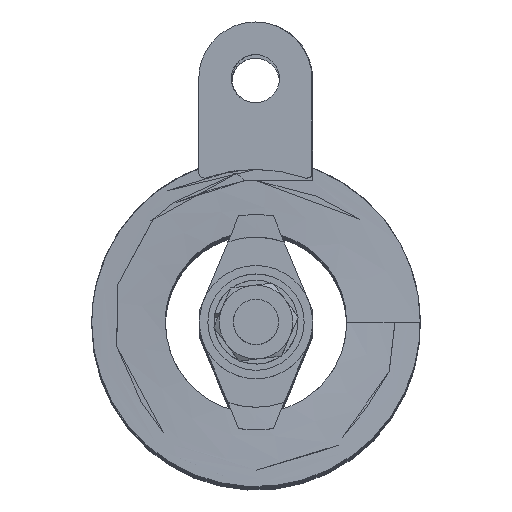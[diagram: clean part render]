
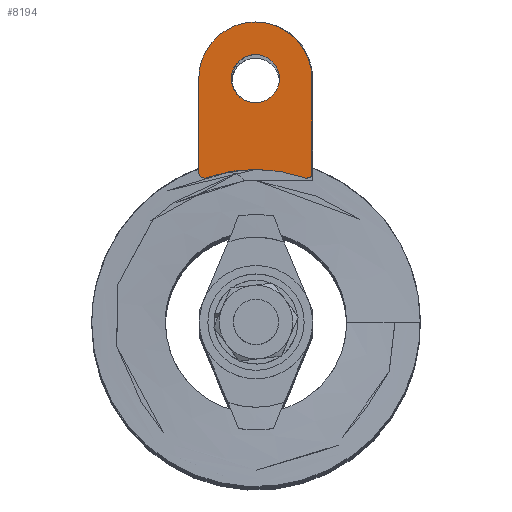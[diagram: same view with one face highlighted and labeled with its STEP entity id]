
A CAD part, top view. The second image highlights one B-rep face of the part: STEP entity #8194.
In plain terms, the highlighted planar face has unit normal (-0.036, 0, 0.999) as drawn and (0.036, -0.999, 0) by its records, which use the part's own axes.
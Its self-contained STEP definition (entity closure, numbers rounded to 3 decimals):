
#147=FACE_BOUND('',#2955,.T.);
#1389=LINE('',#25304,#1850);
#1394=LINE('',#27527,#1855);
#1850=VECTOR('',#10149,10.);
#1855=VECTOR('',#10156,10.);
#2517=FACE_OUTER_BOUND('',#2954,.T.);
#2954=EDGE_LOOP('',(#7517,#7518,#7519,#7520,#7521,#7522));
#2955=EDGE_LOOP('',(#7523));
#3031=CIRCLE('',#8836,1.);
#3034=CIRCLE('',#8841,26.);
#3035=CIRCLE('',#8843,1.);
#3036=CIRCLE('',#8845,10.);
#3037=CIRCLE('',#8847,4.25);
#3835=VERTEX_POINT('',#25027);
#3837=VERTEX_POINT('',#25071);
#3841=VERTEX_POINT('',#25111);
#3842=VERTEX_POINT('',#25131);
#3846=VERTEX_POINT('',#25164);
#3847=VERTEX_POINT('',#25173);
#3848=VERTEX_POINT('',#25177);
#5051=EDGE_CURVE('',#3835,#3837,#3031,.T.);
#5057=EDGE_CURVE('',#3837,#3841,#3034,.T.);
#5059=EDGE_CURVE('',#3841,#3842,#3035,.T.);
#5064=EDGE_CURVE('',#3847,#3846,#3036,.T.);
#5066=EDGE_CURVE('',#3848,#3848,#3037,.T.);
#5072=EDGE_CURVE('',#3842,#3847,#1389,.T.);
#5081=EDGE_CURVE('',#3835,#3846,#1394,.T.);
#7517=ORIENTED_EDGE('',*,*,#5059,.T.);
#7518=ORIENTED_EDGE('',*,*,#5072,.T.);
#7519=ORIENTED_EDGE('',*,*,#5064,.T.);
#7520=ORIENTED_EDGE('',*,*,#5081,.F.);
#7521=ORIENTED_EDGE('',*,*,#5051,.T.);
#7522=ORIENTED_EDGE('',*,*,#5057,.T.);
#7523=ORIENTED_EDGE('',*,*,#5066,.T.);
#7605=PLANE('',#8849);
#8194=ADVANCED_FACE('',(#2517,#147),#7605,.T.);
#8836=AXIS2_PLACEMENT_3D('',#25073,#10118,#10119);
#8841=AXIS2_PLACEMENT_3D('',#25113,#10129,#10130);
#8843=AXIS2_PLACEMENT_3D('',#25132,#10133,#10134);
#8845=AXIS2_PLACEMENT_3D('',#25174,#10138,#10139);
#8847=AXIS2_PLACEMENT_3D('',#25178,#10143,#10144);
#8849=AXIS2_PLACEMENT_3D('',#27526,#10154,#10155);
#10118=DIRECTION('center_axis',(0.036,-0.999,0.));
#10119=DIRECTION('ref_axis',(0.999,0.036,0.));
#10129=DIRECTION('center_axis',(-0.036,0.999,0.));
#10130=DIRECTION('ref_axis',(0.333,0.012,0.943));
#10133=DIRECTION('center_axis',(0.036,-0.999,0.));
#10134=DIRECTION('ref_axis',(0.333,0.012,0.943));
#10138=DIRECTION('center_axis',(0.036,-0.999,0.));
#10139=DIRECTION('ref_axis',(-0.999,-0.036,0.));
#10143=DIRECTION('center_axis',(-0.036,0.999,0.));
#10144=DIRECTION('ref_axis',(-0.999,-0.036,0.));
#10149=DIRECTION('',(0.,0.,-1.));
#10154=DIRECTION('center_axis',(0.036,-0.999,0.));
#10155=DIRECTION('ref_axis',(-0.999,-0.036,0.));
#10156=DIRECTION('',(0.,0.,-1.));
#25027=CARTESIAN_POINT('',(10.109,-1.409,-26.456));
#25071=CARTESIAN_POINT('',(8.777,-1.457,-25.513));
#25073=CARTESIAN_POINT('Origin',(9.11,-1.445,-26.456));
#25111=CARTESIAN_POINT('',(-8.545,-2.088,-25.513));
#25113=CARTESIAN_POINT('Origin',(0.116,-1.773,-1.));
#25131=CARTESIAN_POINT('',(-9.877,-2.137,-26.456));
#25132=CARTESIAN_POINT('Origin',(-8.878,-2.1,-26.456));
#25164=CARTESIAN_POINT('',(10.109,-1.409,-43.));
#25173=CARTESIAN_POINT('',(-9.877,-2.137,-43.));
#25174=CARTESIAN_POINT('Origin',(0.116,-1.773,-43.));
#25177=CARTESIAN_POINT('',(4.363,-1.618,-43.));
#25178=CARTESIAN_POINT('Origin',(0.116,-1.773,-43.));
#25304=CARTESIAN_POINT('',(-9.877,-2.137,-25.));
#27526=CARTESIAN_POINT('Origin',(10.109,-1.409,-25.));
#27527=CARTESIAN_POINT('',(10.109,-1.409,-25.));
